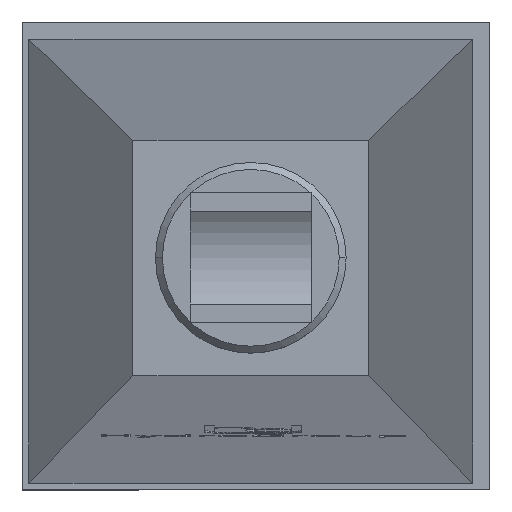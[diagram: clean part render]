
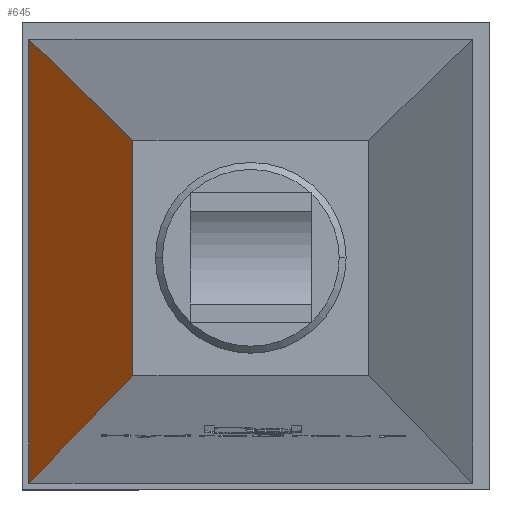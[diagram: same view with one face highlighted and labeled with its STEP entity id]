
A CAD part, top view. The second image highlights one B-rep face of the part: STEP entity #645.
In plain terms, the highlighted planar face has unit normal (-0.999, 0, 0.055).
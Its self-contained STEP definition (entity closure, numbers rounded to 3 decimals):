
#645=ADVANCED_FACE('',(#1322),#1323,.F.);
#1322=FACE_OUTER_BOUND('',#2074,.T.);
#1323=PLANE('',#2075);
#2074=EDGE_LOOP('',(#4022,#4023,#4024,#4025));
#2075=AXIS2_PLACEMENT_3D('',#4026,#4027,#4028);
#4022=ORIENTED_EDGE('',*,*,#5025,.F.);
#4023=ORIENTED_EDGE('',*,*,#4783,.F.);
#4024=ORIENTED_EDGE('',*,*,#5048,.F.);
#4025=ORIENTED_EDGE('',*,*,#5059,.T.);
#4026=CARTESIAN_POINT('',(227.368,301.449,465.941));
#4027=DIRECTION('',(0.998,0.,-0.055));
#4028=DIRECTION('',(0.,-1.0,0.));
#4783=EDGE_CURVE('',#5762,#5758,#5764,.T.);
#5025=EDGE_CURVE('',#5758,#6082,#6083,.F.);
#5048=EDGE_CURVE('',#6113,#5762,#6115,.T.);
#5059=EDGE_CURVE('',#6113,#6082,#6128,.T.);
#5758=VERTEX_POINT('',#7349);
#5762=VERTEX_POINT('',#7355);
#5764=LINE('',#7358,#7359);
#6082=VERTEX_POINT('',#7936);
#6083=LINE('',#7937,#7938);
#6113=VERTEX_POINT('',#7982);
#6115=LINE('',#7985,#7986);
#6128=LINE('',#8004,#8005);
#7349=CARTESIAN_POINT('',(167.359,238.445,-616.225));
#7355=CARTESIAN_POINT('',(227.359,298.445,465.775));
#7358=CARTESIAN_POINT('',(227.576,298.662,469.689));
#7359=VECTOR('',#8698,1.);
#7936=CARTESIAN_POINT('',(167.359,494.454,-616.225));
#7937=CARTESIAN_POINT('',(167.359,333.949,-616.225));
#7938=VECTOR('',#8870,1.0);
#7982=CARTESIAN_POINT('',(227.359,434.454,465.775));
#7985=CARTESIAN_POINT('',(227.359,333.949,465.775));
#7986=VECTOR('',#8886,1.0);
#8004=CARTESIAN_POINT('',(227.576,434.237,469.689));
#8005=VECTOR('',#8892,1.);
#8698=DIRECTION('',(-0.055,-0.055,-0.997));
#8870=DIRECTION('',(0.,-1.0,0.));
#8886=DIRECTION('',(0.,-1.0,0.));
#8892=DIRECTION('',(-0.055,0.055,-0.997));
